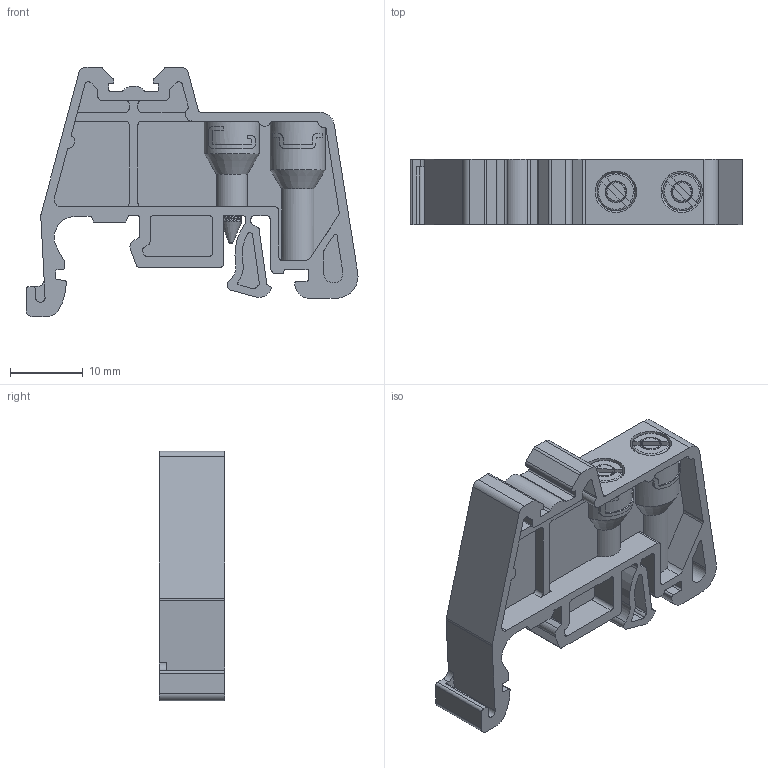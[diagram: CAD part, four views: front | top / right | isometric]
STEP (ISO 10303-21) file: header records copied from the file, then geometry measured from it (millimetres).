
FILE_DESCRIPTION(/* description */ ('Unknown'),/* implementation_level */ '2;1');
FILE_NAME(/* name */ 'CA702',/* time_stamp */ '2020-10-16T16:45:35+05:00',/* author */ ('Unknown'),/* organization */ ('Unknown'),/* preprocessor_version */ 'ST-DEVELOPER v16.7',/* originating_system */ 'DEX',/* authorisation */ $);
FILE_SCHEMA (('AP242_MANAGED_MODEL_BASED_3D_ENGINEERING_MIM_LF { 1 0 10303 442 20130219 1 4 }'));
Products named in the file (4): CA702; Self threaded screw CC606045 THREAD 2; Self threaded screw CC606045 thread new; CA702 Housing_CH614700_R01
Assembly tree (3 placements, depth 2):
  CA702
    Self threaded screw CC606045 THREAD 2
    Self threaded screw CC606045 thread new
    CA702 Housing_CH614700_R01
Bounding box: 45.61 x 8.95 x 34.3 mm (x, y, z)
Volume: 4177.6 mm3; surface area: 6564.2 mm2
Topology: 5 solids, 5 shells, 481 faces, 1382 edges, 919 vertices
Faces by surface type: plane 225, cylinder 200, bspline 38, cone 10, torus 6, sphere 2
Full cylindrical faces by diameter (mm): 2.507 x1, 3 x2, 5.2 x2, 5.7 x2
Entity records: 67731 total; most frequent: CARTESIAN_POINT 52009, ORIENTED_EDGE 2714, DIRECTION 2431, EDGE_CURVE 1357, VERTEX_POINT 911, AXIS2_PLACEMENT_3D 846, LINE 739, VECTOR 739
